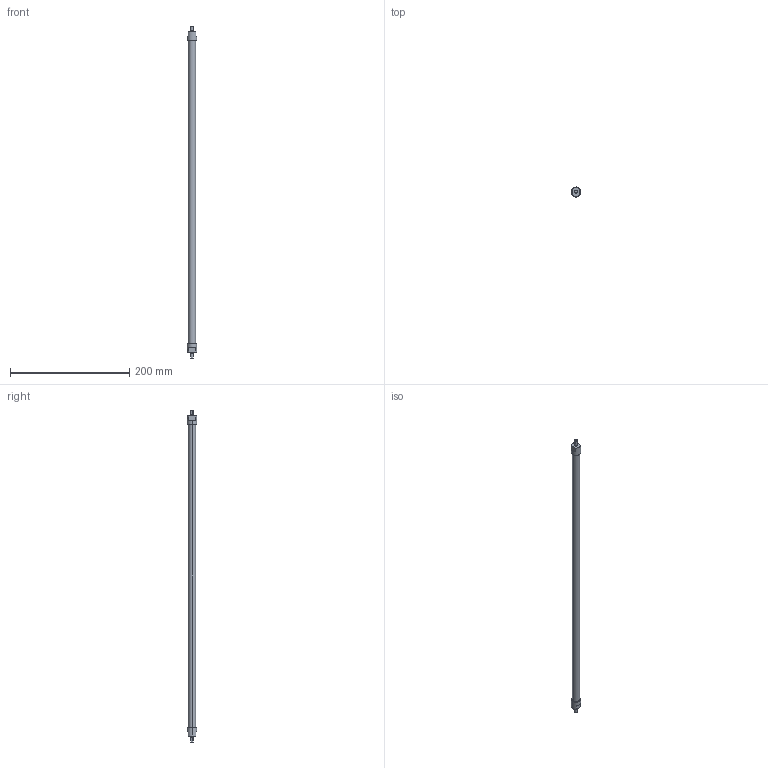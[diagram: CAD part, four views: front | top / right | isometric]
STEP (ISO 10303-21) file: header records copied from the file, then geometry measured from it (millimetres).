
FILE_DESCRIPTION(('STEP AP214'),'1');
FILE_NAME('ETT-R025N545.stp','2015-02-04T08:22:32',(' '),(' '),'Spatial InterOp 3D',' ',' ');
FILE_SCHEMA(('automotive_design'));
Length unit declared in the file: metre
Products named in the file (3): 1; 2; 3
Bounding box: 16 x 16 x 556 mm (x, y, z)
Volume: 63187.6 mm3; surface area: 21664.8 mm2
Topology: 1 solids, 7 shells, 30 faces, 81 edges, 63 vertices
Faces by surface type: plane 16, cylinder 14
Entity records: 1295 total; most frequent: DIRECTION 194, CARTESIAN_POINT 177, ORIENTED_EDGE 138, EDGE_CURVE 81, AXIS2_PLACEMENT_3D 80, VERTEX_POINT 63, CIRCLE 47, EDGE_LOOP 36
